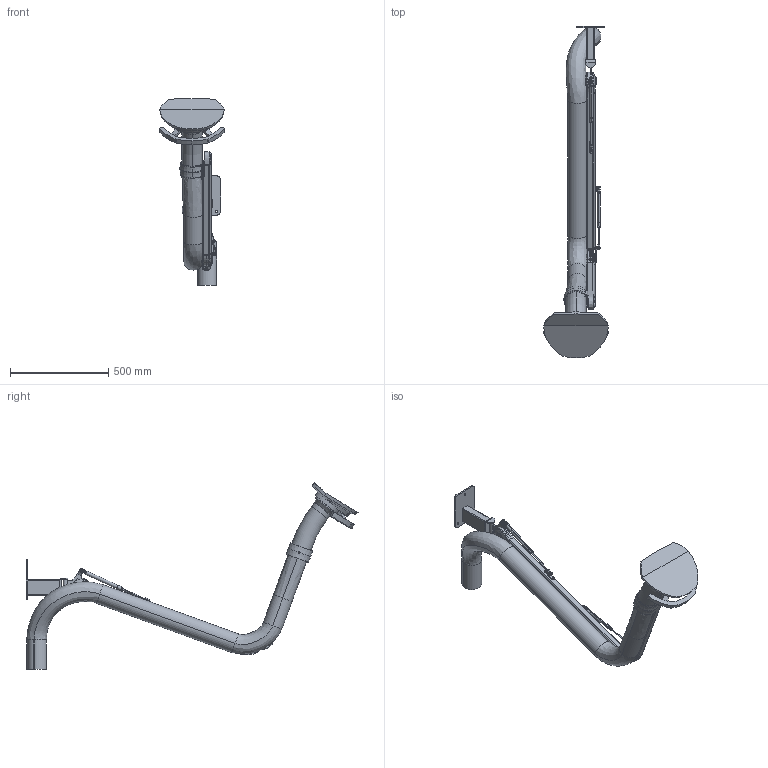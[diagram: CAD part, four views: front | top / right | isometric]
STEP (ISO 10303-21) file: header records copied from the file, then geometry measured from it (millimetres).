
FILE_DESCRIPTION((''),'2;1');
FILE_NAME('PR2000-100_135149','2017-12-20T',('Tomas Bellgran'),(''),'CREO PARAMETRIC BY PTC INC, 2016130','CREO PARAMETRIC BY PTC INC, 2016130','');
FILE_SCHEMA(('AUTOMOTIVE_DESIGN { 1 0 10303 214 1 1 1 1 }'));
Length unit declared in the file: millimetre
Products named in the file (44): 100-6300-01; 100-6300-02; 100-6300-04; 100-6300; 102680; 100-5506_L_LIGHT; 100-5506_R_LIGHT; 100-5506; 100-5404-L_LIGHT; 100-5404-R_LIGHT; 100-5404; 100-5914; 100-5913; 100-5915; 122223; 102678; 100-5512-L_LIGHT; 100-512-R_LIGHT; 100-5512; 122220; 102715; 100-5911; 100-5518; 100-6305-2; 100-6305-1; 100-6305; 134111; 100-5721_LIGHT; 100-5821_LIGHT; 100-5862A_LIGHT; 100-5865A_LIGHT; 100-5826-02; 126054_AF0; 100-6341-100; 136884; 135583; STAB_K4-D4; 130367; 102118-REF; 135587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
Assembly tree (47 placements, depth 5):
  PR2000-100_135149
    100-6300
      100-6300-01
      100-6300-02
      100-6300-04
    134111
      122223
        102680
        100-5506
          100-5506_L_LIGHT
          100-5506_R_LIGHT
        100-5404
          100-5404-L_LIGHT
          100-5404-R_LIGHT
        100-5915  x2
          100-5914
          100-5913
      122220
        102678
        100-5512
          100-5512-L_LIGHT
          100-512-R_LIGHT
      100-5518
        102715
        100-5911
      100-6305
        100-6305-2
        100-6305-1
        100-5911
    100-5721_LIGHT
    100-6341-100
      100-5821_LIGHT
      100-5862A_LIGHT
      100-5865A_LIGHT
      100-5826-02
      126054_AF0
    136884
    130367
      135583
      STAB_K4-D4
    102118-REF
    130370
      135587
      STAB_K4-D4
    102845-REF
      GAS_SPRING_ROD_STABILUS
      STAB_K4-D4
Bounding box: 328.82 x 1687.77 x 950.01 mm (x, y, z)
Volume: 7879492 mm3; surface area: 2406250.4 mm2
Topology: 35 solids, 36 shells, 866 faces, 2080 edges, 1283 vertices
Faces by surface type: cylinder 273, plane 272, cone 130, torus 83, bspline 78, sphere 26, extrusion 4
Entity records: 43651 total; most frequent: CARTESIAN_POINT 10875, DIRECTION 3880, ORIENTED_EDGE 3618, EDGE_CURVE 1809, PROPERTY_DEFINITION 1742, REPRESENTATION 1713, PROPERTY_DEFINITION_REPRESENTATION 1713, AXIS2_PLACEMENT_3D 1568
